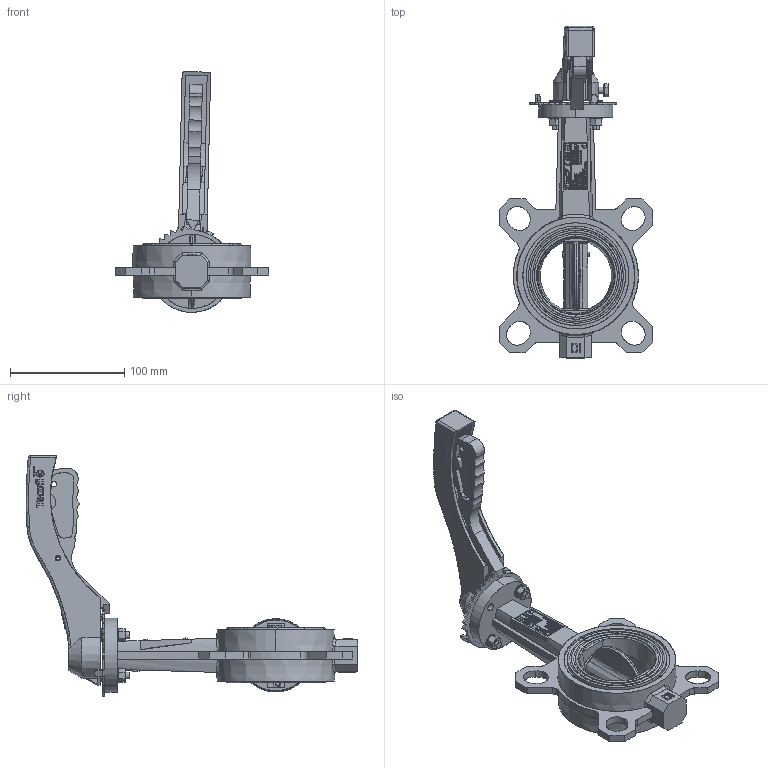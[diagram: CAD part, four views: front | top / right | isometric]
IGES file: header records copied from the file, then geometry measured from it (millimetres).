
Start section: SolidWorks IGES file using analytic representation for surfaces
Global section: file name: H:\BE BIBLIOTHEQUE 3D\BE SECTION 01 - ROBINETS A PAPILLON_VANNES PASSAGE DIRECTE\VP - Vanne Papillon\VPG\WAFER\DN65\VPG444X-02XX0065-Défaut.igs; native system: SolidWorks 2020; preprocessor: SolidWorks 2020; author: k.gigout; date: 220519.182046; units: millimetre
Bounding box: 134.85 x 290.93 x 211.19 mm (x, y, z)
Surface area: 133537.7 mm2 (no closed solid volume)
Topology: 0 solids, 0 shells, 888 faces, 19961 edges, 19957 vertices
Faces by surface type: bspline 689, revolution 199
